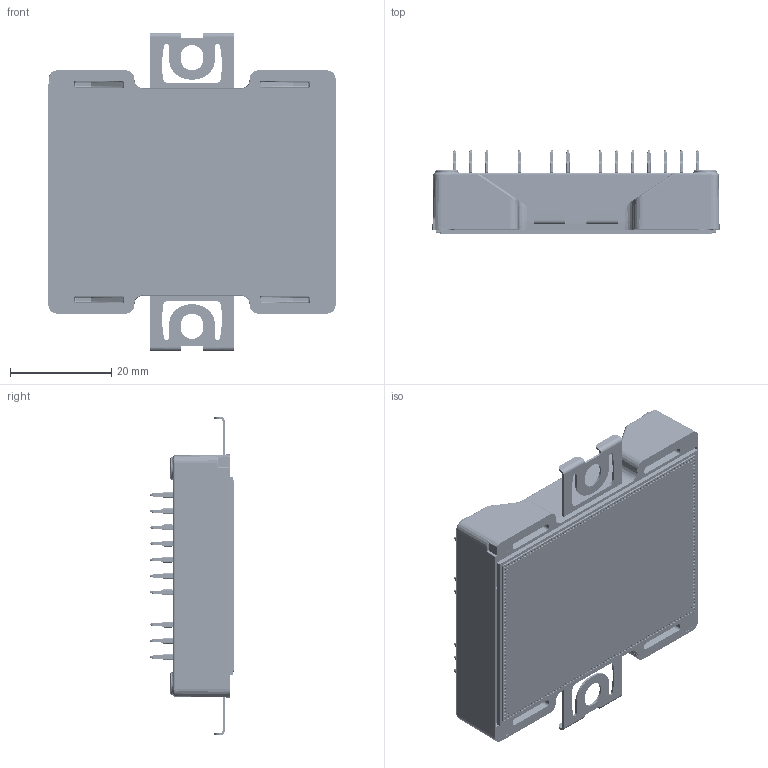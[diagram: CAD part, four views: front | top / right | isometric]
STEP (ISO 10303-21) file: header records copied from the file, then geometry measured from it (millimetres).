
FILE_DESCRIPTION (( 'STEP AP214' ), '1' );
FILE_NAME ('CAB004A12GM4 (2026-06-05).STEP', '2026-06-06T01:24:39', ( '' ), ( '' ), 'SwSTEP 2.0', 'SolidWorks 2025', '' );
FILE_SCHEMA (( 'AUTOMOTIVE_DESIGN' ));
Length unit declared in the file: millimetre
Products named in the file (1): CAB004A12GM4 (2026-06-05)
Bounding box: 56.7 x 16.65 x 62.8 mm (x, y, z)
Volume: 24161.6 mm3; surface area: 18086.8 mm2
Topology: 37 solids, 39 shells, 5555 faces, 13712 edges, 8558 vertices
Faces by surface type: cylinder 1805, plane 1554, bspline 1132, cone 1064
Entity records: 183980 total; most frequent: CARTESIAN_POINT 60843, ORIENTED_EDGE 27424, DIRECTION 23485, EDGE_CURVE 13712, AXIS2_PLACEMENT_3D 9014, VERTEX_POINT 8558, EDGE_LOOP 6218, FACE_OUTER_BOUND 5555
